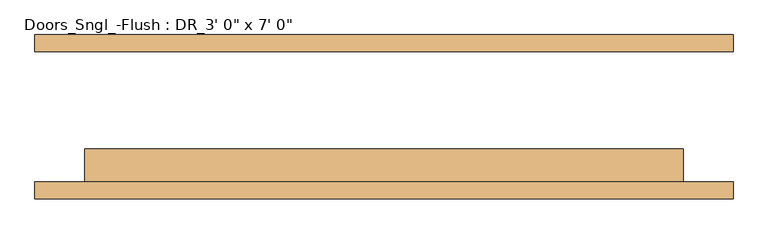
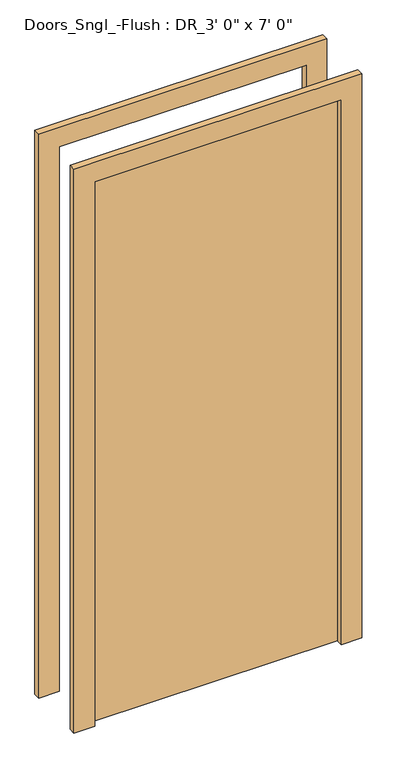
"""IFC4 building model written with IfcOpenShell, lengths in millimetres: door geometry."""

import ifcopenshell
import ifcopenshell.guid

model = None  # the IFC model being written
_history = None  # IfcOwnerHistory: only IFC2X3 demands one
_inside = {}  # id of a spatial element -> (the spatial element, [elements in it])
_under = {}  # id of a project, library or spatial element -> (it, [spatial elements below it])
_declared = {}  # id of a project -> (the project, [libraries it declares])
_typed = {}  # id of a type object -> (the type object, [elements of that type])
_made_of = {}  # id of a material, layer set ... -> (it, [elements and type objects made of it])


def new_model(schema):
    """Start an empty IFC model of exactly this schema.

    Asked for "IFC4X3", IfcOpenShell would pick the latest addendum, in which some entities
    have other attributes; the version numbers below select the first issue.
    IFC2X3 requires an IfcOwnerHistory on every rooted entity: one is made here for all.
    """
    global model, _history
    if schema == "IFC4X3":
        model = ifcopenshell.file(schema_version=(4, 3, 0, 0))
    else:
        model = ifcopenshell.file(schema=schema)
    _inside.clear()
    _under.clear()
    _declared.clear()
    _typed.clear()
    _made_of.clear()
    _history = None
    if model.schema == "IFC2X3":
        org = make("IfcOrganization", Name="unknown")
        user = make(
            "IfcPersonAndOrganization",
            ThePerson=make("IfcPerson", FamilyName="unknown"),
            TheOrganization=org,
        )
        app = make(
            "IfcApplication",
            ApplicationDeveloper=org,
            Version="unknown",
            ApplicationFullName="unknown",
            ApplicationIdentifier="unknown",
        )
        _history = make(
            "IfcOwnerHistory",
            OwningUser=user,
            OwningApplication=app,
            ChangeAction="ADDED",
            CreationDate=0,
        )
    return model


def make(cls, **values):
    """One entity of the class cls with the attributes given. An attribute that is None is left unset."""
    return model.create_entity(
        cls, **{name: value for name, value in values.items() if value is not None}
    )


def rooted(cls, **values):
    """An entity with a GlobalId (a new one), such as an element, a storey or a relation."""
    return make(cls, GlobalId=ifcopenshell.guid.new(), OwnerHistory=_history, **values)


def si_unit(unit_type, name, prefix=None):
    """IfcSIUnit, for example si_unit("LENGTHUNIT", "METRE", prefix="MILLI")."""
    return make("IfcSIUnit", UnitType=unit_type, Prefix=prefix, Name=name)


def assignment(units):
    """IfcUnitAssignment: the units of a project."""
    return None if units is None else make("IfcUnitAssignment", Units=units)


def point(xyz):
    """IfcCartesianPoint."""
    return None if xyz is None else make("IfcCartesianPoint", Coordinates=xyz)


def direction(xyz):
    """IfcDirection."""
    return None if xyz is None else make("IfcDirection", DirectionRatios=xyz)


def frame(location, z_axis=None, x_axis=None):
    """IfcAxis2Placement3D, a coordinate frame: its origin and axes. An axis left out is left unset."""
    return make(
        "IfcAxis2Placement3D",
        Location=point(location),
        Axis=direction(z_axis),
        RefDirection=direction(x_axis),
    )


def origin():
    """The frame at (0, 0, 0) with its axes left unset."""
    return frame((0.0, 0.0, 0.0))


def origin_with_axes():
    """The frame at (0, 0, 0) with the z axis (0, 0, 1) and the x axis (1, 0, 0) written out."""
    return frame((0.0, 0.0, 0.0), z_axis=(0.0, 0.0, 1.0), x_axis=(1.0, 0.0, 0.0))


def place(relative_to, where):
    """IfcLocalPlacement: puts the frame where relative to a parent placement (None: the world)."""
    return make(
        "IfcLocalPlacement", PlacementRelTo=relative_to, RelativePlacement=where
    )


def context(
    kind, dimensions, precision=None, world=None, true_north=None, identifier=None
):
    """IfcGeometricRepresentationContext, for example the 3D "Model" context."""
    return make(
        "IfcGeometricRepresentationContext",
        ContextIdentifier=identifier,
        ContextType=kind,
        CoordinateSpaceDimension=dimensions,
        Precision=precision,
        WorldCoordinateSystem=world,
        TrueNorth=true_north,
    )


def project(units=None, contexts=None):
    """IfcProject with its units and contexts."""
    return rooted(
        "IfcProject",
        Name="project",
        RepresentationContexts=contexts,
        UnitsInContext=assignment(units),
    )


def spatial(cls, under=None, at=None, **own):
    """A site, building, storey or space (cls), placed at a placement, below another one or the project."""
    s = rooted(cls, ObjectPlacement=at, **own)
    if under is not None:
        _under.setdefault(under.id(), (under, []))[1].append(s)
    return s


def polyline(points):
    """IfcPolyline through the points."""
    return make("IfcPolyline", Points=[point(p) for p in points])


def outline(outer, holes=None, kind="AREA"):
    """IfcArbitraryClosedProfileDef: a profile drawn as a closed curve; with holes, ...WithVoids."""
    if holes is None:
        return make("IfcArbitraryClosedProfileDef", ProfileType=kind, OuterCurve=outer)
    return make(
        "IfcArbitraryProfileDefWithVoids",
        ProfileType=kind,
        OuterCurve=outer,
        InnerCurves=holes,
    )


def extrude(swept, where, along, depth):
    """IfcExtrudedAreaSolid: the profile swept, set in the frame where, extruded along a direction by depth."""
    return make(
        "IfcExtrudedAreaSolid",
        SweptArea=swept,
        Position=where,
        ExtrudedDirection=direction(along),
        Depth=depth,
    )


def shape(context_of_items, identifier, shape_type, items):
    """IfcShapeRepresentation: the items that make up one representation, for example the "Body"."""
    return make(
        "IfcShapeRepresentation",
        ContextOfItems=context_of_items,
        RepresentationIdentifier=identifier,
        RepresentationType=shape_type,
        Items=items,
    )


def source(mapping_origin, context_of_items, identifier, shape_type, items):
    """IfcRepresentationMap: a shape defined once, which mapped items show again and again."""
    return make(
        "IfcRepresentationMap",
        MappingOrigin=mapping_origin,
        MappedRepresentation=shape(context_of_items, identifier, shape_type, items),
    )


def transform(
    local_origin,
    x_axis=None,
    y_axis=None,
    z_axis=None,
    scale=None,
    scale2=None,
    scale3=None,
    uniform=True,
):
    """IfcCartesianTransformationOperator3D, or its non-uniform kind. x_axis, y_axis, z_axis: its Axis1, 2, 3."""
    if uniform:
        return make(
            "IfcCartesianTransformationOperator3D",
            Axis1=direction(x_axis),
            Axis2=direction(y_axis),
            LocalOrigin=point(local_origin),
            Scale=scale,
            Axis3=direction(z_axis),
        )
    return make(
        "IfcCartesianTransformationOperator3DnonUniform",
        Axis1=direction(x_axis),
        Axis2=direction(y_axis),
        LocalOrigin=point(local_origin),
        Scale=scale,
        Axis3=direction(z_axis),
        Scale2=scale2,
        Scale3=scale3,
    )


def mapped(mapping_source, mapping_target):
    """IfcMappedItem: shows the shape of a source again, moved by a transform."""
    return make(
        "IfcMappedItem", MappingSource=mapping_source, MappingTarget=mapping_target
    )


def made_of(thing, what):
    """Note that an element or type object is made of a material, layer set ...; save() writes the relation."""
    if what is not None:
        _made_of.setdefault(what.id(), (what, []))[1].append(thing)
    return thing


def element(
    cls,
    number,
    at=None,
    inside=None,
    cuts=None,
    type_object=None,
    material=None,
    context=None,
    identifier="Body",
    shape_type=None,
    held_by="IfcProductDefinitionShape",
    body=None,
    shapes=None,
    **own,
):
    """One element of the class cls, such as IfcWall. Its Tag is "e" and its number.

    at: its placement. inside: the storey or other place that contains it. cuts: it is an
    opening in that element (IfcRelVoidsElement). A single representation is given by context,
    identifier, shape_type and body (its items); several are given by shapes. held_by: the class
    of the entity that holds the representations. save() writes the other relations.
    """
    e = rooted(cls, Tag="e%d" % number, ObjectPlacement=at, **own)
    if body is not None:
        shapes = [shape(context, identifier, shape_type, body)]
    if shapes is not None:
        e.Representation = make(held_by, Representations=shapes)
    if inside is not None:
        _inside.setdefault(inside.id(), (inside, []))[1].append(e)
    if cuts is not None:
        rooted(
            "IfcRelVoidsElement", RelatingBuildingElement=cuts, RelatedOpeningElement=e
        )
    if type_object is not None:
        _typed.setdefault(type_object.id(), (type_object, []))[1].append(e)
    return made_of(e, material)


def aggregate(whole, parts):
    """IfcRelAggregates: a whole, such as a stair, and the parts it consists of."""
    return rooted("IfcRelAggregates", RelatingObject=whole, RelatedObjects=parts)


def save(model, path):
    """Write the relations noted so far, then the file.

    IfcRelAggregates (storeys below a building ...), IfcRelContainedInSpatialStructure (elements
    in a storey), IfcRelDefinesByType, IfcRelAssociatesMaterial and IfcRelDeclares: one each for
    every whole, place, type object, material and project.
    """
    for whole, parts in _under.values():
        aggregate(whole, parts)
    for where, things in _inside.values():
        rooted(
            "IfcRelContainedInSpatialStructure",
            RelatedElements=things,
            RelatingStructure=where,
        )
    for kind, things in _typed.values():
        rooted("IfcRelDefinesByType", RelatedObjects=things, RelatingType=kind)
    for what, things in _made_of.values():
        rooted("IfcRelAssociatesMaterial", RelatedObjects=things, RelatingMaterial=what)
    for by, libraries in _declared.values():
        rooted("IfcRelDeclares", RelatingContext=by, RelatedDefinitions=libraries)
    model.write(path)


def door_2f8c2a3e(model_context):
    return source(origin(), model_context, "Body", "SweptSolid", [
        extrude(outline(polyline([(2209.8, -533.4), (0.0, -533.4), (0.0, -457.2), (2133.6, -457.2), (2133.6, 457.2), (0.0, 457.2), (0.0, 533.4), (2209.8, 533.4), (2209.8, -533.4)])), frame((0.0, -125.4125, 0.0), z_axis=(0.0, 1.0, 0.0), x_axis=(0.0, 0.0, 1.0)), (0.0, 0.0, 1.0), 25.4),
        extrude(outline(polyline([(2209.8, 533.4), (2209.8, -533.4), (0.0, -533.4), (0.0, -457.2), (2133.6, -457.2), (2133.6, 457.2), (0.0, 457.2), (0.0, 533.4), (2209.8, 533.4)])), frame((0.0, 100.0125, 0.0), z_axis=(0.0, 1.0, 0.0), x_axis=(0.0, 0.0, 1.0)), (0.0, 0.0, 1.0), 25.4),
        extrude(outline(polyline([(457.2, -49.2125), (457.2, -100.0125), (-457.2, -100.0125), (-457.2, -49.2125), (457.2, -49.2125)])), origin_with_axes(), (0.0, 0.0, 1.0), 2133.6),
    ])


if __name__ == "__main__":
    model = new_model("IFC4")
    model_context = context("Model", 3, world=origin())
    ifc_project = project(units=[si_unit("LENGTHUNIT", "METRE", prefix="MILLI")], contexts=[model_context])
    site = spatial("IfcSite", under=ifc_project)
    building = spatial("IfcBuilding", under=site)
    placement = place(None, origin())
    door_shape = door_2f8c2a3e(model_context)
    element("IfcDoor", 1, ObjectType="Doors_Sngl_-Flush : DR_3' 0\" x 7' 0\"", at=placement, inside=building, context=model_context, shape_type="MappedRepresentation", body=[
        mapped(door_shape, transform((0.0, 0.0, 0.0), x_axis=(1.0, 0.0, 0.0), y_axis=(0.0, 1.0, 0.0), z_axis=(0.0, 0.0, 1.0))),
    ])
    save(model, "model.ifc")
